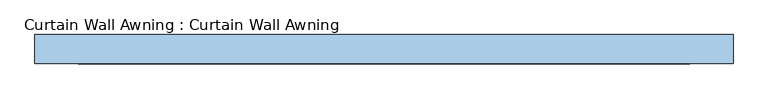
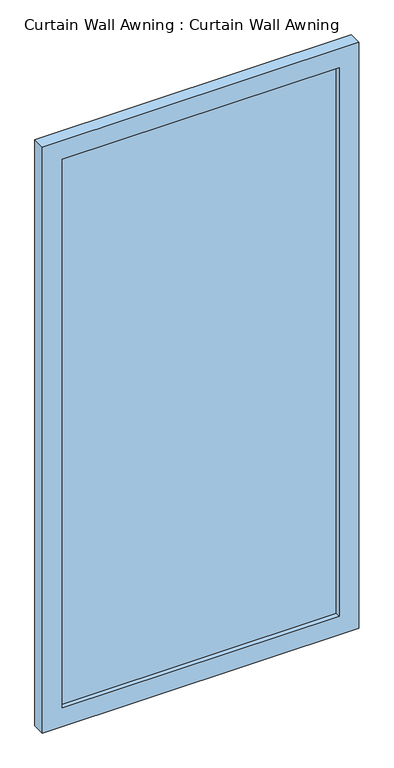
"""IFC4 building model written with IfcOpenShell, lengths in millimetres: window geometry, Curtain Wall Awning : Curtain Wall Awning."""

from ifc_helpers import new_model, si_unit, frame, origin, place, context, project, spatial, polyline, outline, extrude, source, transform, mapped, element, save


def curtain_wall_awning_curtain_wall_awning_5cf14e66(model_context):
    return source(origin(), model_context, "Body", "SweptSolid", [
        extrude(outline(polyline([(536.3, 44.45), (-536.3, 44.45), (-536.3, 57.15), (536.3, 57.15), (536.3, 44.45)])), frame((0.0, 0.0, 76.2), z_axis=(0.0, 0.0, 1.0), x_axis=(1.0, 0.0, 0.0)), (0.0, 0.0, 1.0), 2247.6),
        extrude(outline(polyline([(2400.0, -612.5), (0.0, -612.5), (0.0, 612.5), (2400.0, 612.5), (2400.0, -612.5)]), holes=[polyline([(2323.8, -536.3), (2323.8, 536.3), (76.2, 536.3), (76.2, -536.3), (2323.8, -536.3)])]), frame((0.0, 25.4, 0.0), z_axis=(0.0, 1.0, 0.0), x_axis=(0.0, 0.0, 1.0)), (0.0, 0.0, 1.0), 50.8),
    ])


if __name__ == "__main__":
    model = new_model("IFC4")
    model_context = context("Model", 3, world=origin())
    ifc_project = project(units=[si_unit("LENGTHUNIT", "METRE", prefix="MILLI")], contexts=[model_context])
    site = spatial("IfcSite", under=ifc_project)
    building = spatial("IfcBuilding", under=site)
    placement = place(None, origin())
    curtain_wall_awning_curtain_wall_awning_shape = curtain_wall_awning_curtain_wall_awning_5cf14e66(model_context)
    element("IfcWindow", 1, ObjectType="Curtain Wall Awning : Curtain Wall Awning", at=placement, inside=building, context=model_context, shape_type="MappedRepresentation", body=[
        mapped(curtain_wall_awning_curtain_wall_awning_shape, transform((0.0, 0.0, 0.0), x_axis=(1.0, 0.0, 0.0), y_axis=(0.0, 1.0, 0.0), z_axis=(0.0, 0.0, 1.0))),
    ])
    save(model, "model.ifc")
